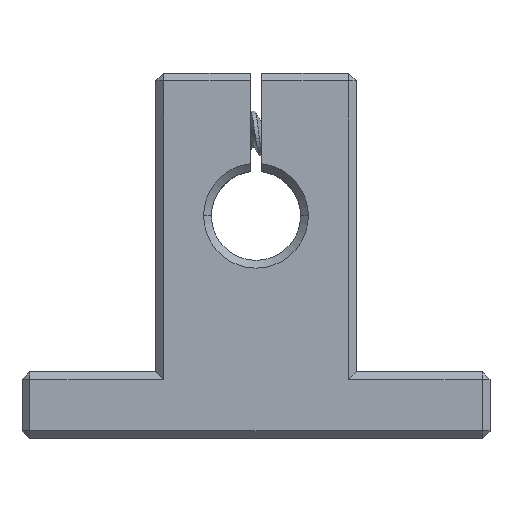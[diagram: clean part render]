
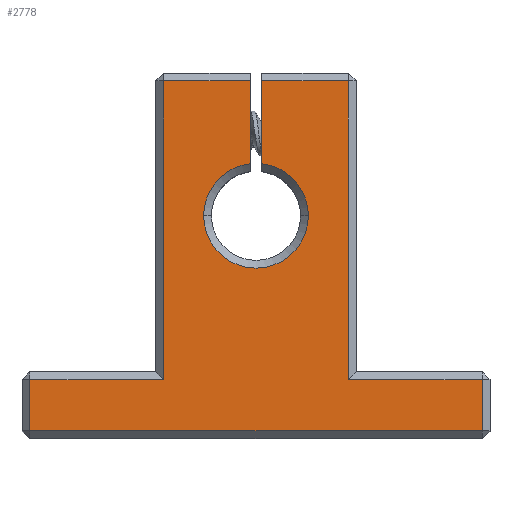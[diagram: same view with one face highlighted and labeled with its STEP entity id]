
A CAD part, top view. The second image highlights one B-rep face of the part: STEP entity #2778.
In plain terms, the highlighted planar face has unit normal (0, 0, 1).
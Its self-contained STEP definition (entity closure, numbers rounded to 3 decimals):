
#63 = VERTEX_POINT ( 'NONE', #3324 ) ;
#64 = CIRCLE ( 'NONE', #2609, 4.7 ) ;
#94 = CARTESIAN_POINT ( 'NONE',  ( 8.3, 32.1, 14. ) ) ;
#157 = EDGE_CURVE ( 'NONE', #5146, #3042, #6325, .T. ) ;
#211 = DIRECTION ( 'NONE',  ( -1., 0., 0. ) ) ;
#215 = VECTOR ( 'NONE', #7336, 1000. ) ;
#219 = EDGE_CURVE ( 'NONE', #617, #7261, #64, .T. ) ;
#249 = AXIS2_PLACEMENT_3D ( 'NONE', #5434, #2027, #6005 ) ;
#337 = FACE_OUTER_BOUND ( 'NONE', #6803, .T. ) ;
#363 = DIRECTION ( 'NONE',  ( -1., 0., 0. ) ) ;
#416 = ORIENTED_EDGE ( 'NONE', *, *, #157, .T. ) ;
#617 = VERTEX_POINT ( 'NONE', #6959 ) ;
#667 = CIRCLE ( 'NONE', #5544, 4.7 ) ;
#805 = CARTESIAN_POINT ( 'NONE',  ( 0., 20., 14. ) ) ;
#1002 = VECTOR ( 'NONE', #5822, 1000. ) ;
#1020 = CARTESIAN_POINT ( 'NONE',  ( 0., 20., 14. ) ) ;
#1033 = VECTOR ( 'NONE', #5623, 1000. ) ;
#1038 = EDGE_CURVE ( 'NONE', #63, #3667, #6483, .T. ) ;
#1370 = ORIENTED_EDGE ( 'NONE', *, *, #219, .T. ) ;
#1486 = CARTESIAN_POINT ( 'NONE',  ( -9., 32.1, 14. ) ) ;
#1592 = VECTOR ( 'NONE', #3663, 1000. ) ;
#1604 = DIRECTION ( 'NONE',  ( 1., 0., 0. ) ) ;
#1633 = CARTESIAN_POINT ( 'NONE',  ( 0.5, 23.969, 14. ) ) ;
#1637 = EDGE_CURVE ( 'NONE', #4156, #63, #5245, .T. ) ;
#1756 = CARTESIAN_POINT ( 'NONE',  ( -4.7, 20., 14. ) ) ;
#1788 = EDGE_CURVE ( 'NONE', #5036, #5379, #3195, .T. ) ;
#1846 = ORIENTED_EDGE ( 'NONE', *, *, #1788, .T. ) ;
#1861 = VERTEX_POINT ( 'NONE', #2630 ) ;
#1886 = AXIS2_PLACEMENT_3D ( 'NONE', #2454, #3005, #6996 ) ;
#1937 = VECTOR ( 'NONE', #7361, 1000. ) ;
#2027 = DIRECTION ( 'NONE',  ( 0., 0., -1. ) ) ;
#2114 = LINE ( 'NONE', #4480, #5126 ) ;
#2192 = CARTESIAN_POINT ( 'NONE',  ( -0.5, 24.673, 14. ) ) ;
#2280 = ORIENTED_EDGE ( 'NONE', *, *, #4467, .T. ) ;
#2358 = LINE ( 'NONE', #5807, #1002 ) ;
#2377 = VERTEX_POINT ( 'NONE', #5134 ) ;
#2391 = VERTEX_POINT ( 'NONE', #5723 ) ;
#2454 = CARTESIAN_POINT ( 'NONE',  ( 0., 20., 14. ) ) ;
#2609 = AXIS2_PLACEMENT_3D ( 'NONE', #805, #5290, #5316 ) ;
#2630 = CARTESIAN_POINT ( 'NONE',  ( -0.5, 32.1, 14. ) ) ;
#2778 = ADVANCED_FACE ( 'NONE', ( #337 ), #5857, .T. ) ;
#2983 = VECTOR ( 'NONE', #6661, 1000. ) ;
#3005 = DIRECTION ( 'NONE',  ( 0., 0., 1. ) ) ;
#3042 = VERTEX_POINT ( 'NONE', #3878 ) ;
#3142 = VECTOR ( 'NONE', #4397, 1000. ) ;
#3195 = CIRCLE ( 'NONE', #249, 4.7 ) ;
#3255 = EDGE_CURVE ( 'NONE', #5023, #5146, #4774, .T. ) ;
#3324 = CARTESIAN_POINT ( 'NONE',  ( -20.3, 5.3, 14. ) ) ;
#3331 = LINE ( 'NONE', #6682, #3142 ) ;
#3378 = CARTESIAN_POINT ( 'NONE',  ( 8.3, 32.8, 14. ) ) ;
#3441 = LINE ( 'NONE', #6760, #215 ) ;
#3468 = ORIENTED_EDGE ( 'NONE', *, *, #6083, .T. ) ;
#3472 = CARTESIAN_POINT ( 'NONE',  ( 20.3, 0.7, 14. ) ) ;
#3519 = ORIENTED_EDGE ( 'NONE', *, *, #5503, .T. ) ;
#3663 = DIRECTION ( 'NONE',  ( -1., 0., 0. ) ) ;
#3667 = VERTEX_POINT ( 'NONE', #5856 ) ;
#3727 = VECTOR ( 'NONE', #211, 1000. ) ;
#3871 = EDGE_CURVE ( 'NONE', #3667, #5053, #3331, .T. ) ;
#3878 = CARTESIAN_POINT ( 'NONE',  ( 0.5, 32.1, 14. ) ) ;
#3880 = LINE ( 'NONE', #1633, #1033 ) ;
#4156 = VERTEX_POINT ( 'NONE', #4216 ) ;
#4216 = CARTESIAN_POINT ( 'NONE',  ( -8.3, 5.3, 14. ) ) ;
#4305 = CARTESIAN_POINT ( 'NONE',  ( 4.7, 20., 14. ) ) ;
#4324 = ORIENTED_EDGE ( 'NONE', *, *, #1038, .T. ) ;
#4383 = LINE ( 'NONE', #1486, #5555 ) ;
#4391 = EDGE_CURVE ( 'NONE', #1861, #2377, #4383, .T. ) ;
#4397 = DIRECTION ( 'NONE',  ( 1., 0., 0. ) ) ;
#4467 = EDGE_CURVE ( 'NONE', #5379, #1861, #2358, .T. ) ;
#4480 = CARTESIAN_POINT ( 'NONE',  ( -8.3, 6., 14. ) ) ;
#4578 = CARTESIAN_POINT ( 'NONE',  ( 8.3, 5.3, 14. ) ) ;
#4675 = LINE ( 'NONE', #5306, #2983 ) ;
#4732 = CARTESIAN_POINT ( 'NONE',  ( 0.5, 32.1, 14. ) ) ;
#4774 = LINE ( 'NONE', #3378, #1937 ) ;
#4965 = VECTOR ( 'NONE', #5808, 1000. ) ;
#5003 = DIRECTION ( 'NONE',  ( 0., 0., -1. ) ) ;
#5023 = VERTEX_POINT ( 'NONE', #4578 ) ;
#5036 = VERTEX_POINT ( 'NONE', #1756 ) ;
#5053 = VERTEX_POINT ( 'NONE', #3472 ) ;
#5126 = VECTOR ( 'NONE', #6167, 1000. ) ;
#5134 = CARTESIAN_POINT ( 'NONE',  ( -8.3, 32.1, 14. ) ) ;
#5146 = VERTEX_POINT ( 'NONE', #94 ) ;
#5236 = ORIENTED_EDGE ( 'NONE', *, *, #3871, .T. ) ;
#5245 = LINE ( 'NONE', #6507, #3727 ) ;
#5290 = DIRECTION ( 'NONE',  ( 0., 0., -1. ) ) ;
#5306 = CARTESIAN_POINT ( 'NONE',  ( 20.3, 6., 14. ) ) ;
#5316 = DIRECTION ( 'NONE',  ( 1., 0., 0. ) ) ;
#5317 = ORIENTED_EDGE ( 'NONE', *, *, #7366, .T. ) ;
#5379 = VERTEX_POINT ( 'NONE', #2192 ) ;
#5434 = CARTESIAN_POINT ( 'NONE',  ( 0., 20., 14. ) ) ;
#5503 = EDGE_CURVE ( 'NONE', #2391, #5023, #3441, .T. ) ;
#5544 = AXIS2_PLACEMENT_3D ( 'NONE', #1020, #5003, #1604 ) ;
#5555 = VECTOR ( 'NONE', #363, 1000. ) ;
#5623 = DIRECTION ( 'NONE',  ( 0., -1., 0. ) ) ;
#5648 = ORIENTED_EDGE ( 'NONE', *, *, #1637, .T. ) ;
#5723 = CARTESIAN_POINT ( 'NONE',  ( 20.3, 5.3, 14. ) ) ;
#5736 = EDGE_CURVE ( 'NONE', #3042, #617, #3880, .T. ) ;
#5807 = CARTESIAN_POINT ( 'NONE',  ( -0.5, 32.8, 14. ) ) ;
#5808 = DIRECTION ( 'NONE',  ( 0., -1., 0. ) ) ;
#5822 = DIRECTION ( 'NONE',  ( 0., 1., 0. ) ) ;
#5856 = CARTESIAN_POINT ( 'NONE',  ( -20.3, 0.7, 14. ) ) ;
#5857 = PLANE ( 'NONE',  #1886 ) ;
#6005 = DIRECTION ( 'NONE',  ( 1., 0., 0. ) ) ;
#6083 = EDGE_CURVE ( 'NONE', #5053, #2391, #4675, .T. ) ;
#6167 = DIRECTION ( 'NONE',  ( 0., -1., 0. ) ) ;
#6298 = EDGE_CURVE ( 'NONE', #2377, #4156, #2114, .T. ) ;
#6312 = ORIENTED_EDGE ( 'NONE', *, *, #5736, .T. ) ;
#6325 = LINE ( 'NONE', #4732, #1592 ) ;
#6380 = CARTESIAN_POINT ( 'NONE',  ( -20.3, 0., 14. ) ) ;
#6483 = LINE ( 'NONE', #6380, #4965 ) ;
#6498 = ORIENTED_EDGE ( 'NONE', *, *, #6298, .T. ) ;
#6507 = CARTESIAN_POINT ( 'NONE',  ( -21., 5.3, 14. ) ) ;
#6661 = DIRECTION ( 'NONE',  ( 0., 1., 0. ) ) ;
#6672 = ORIENTED_EDGE ( 'NONE', *, *, #3255, .T. ) ;
#6682 = CARTESIAN_POINT ( 'NONE',  ( 21., 0.7, 14. ) ) ;
#6760 = CARTESIAN_POINT ( 'NONE',  ( 9., 5.3, 14. ) ) ;
#6803 = EDGE_LOOP ( 'NONE', ( #6312, #1370, #5317, #1846, #2280, #7378, #6498, #5648, #4324, #5236, #3468, #3519, #6672, #416 ) ) ;
#6959 = CARTESIAN_POINT ( 'NONE',  ( 0.5, 24.673, 14. ) ) ;
#6996 = DIRECTION ( 'NONE',  ( 1., 0., 0. ) ) ;
#7261 = VERTEX_POINT ( 'NONE', #4305 ) ;
#7336 = DIRECTION ( 'NONE',  ( -1., 0., 0. ) ) ;
#7361 = DIRECTION ( 'NONE',  ( 0., 1., 0. ) ) ;
#7366 = EDGE_CURVE ( 'NONE', #7261, #5036, #667, .T. ) ;
#7378 = ORIENTED_EDGE ( 'NONE', *, *, #4391, .T. ) ;
